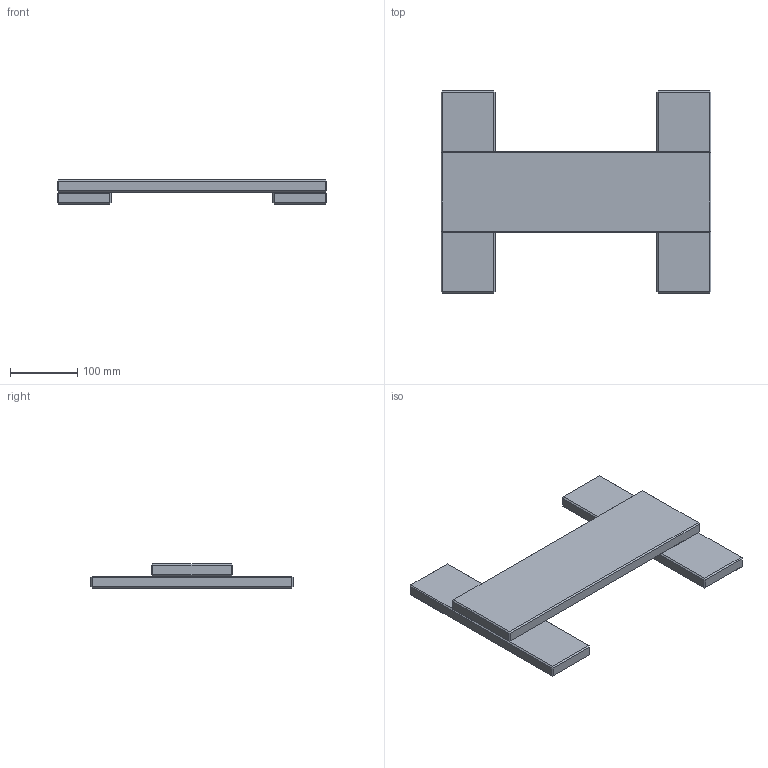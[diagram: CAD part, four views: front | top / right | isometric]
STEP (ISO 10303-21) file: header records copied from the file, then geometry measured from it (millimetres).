
FILE_DESCRIPTION(('Open CASCADE Model'),'2;1');
FILE_NAME('Open CASCADE Shape Model','2026-09-27T15:56:00',('Author'),( 'Open CASCADE'),'Open CASCADE STEP processor 7.9','Open CASCADE 7.9' ,'Unknown');
FILE_SCHEMA(('AUTOMOTIVE_DESIGN { 1 0 10303 214 1 1 1 1 }'));
Length unit declared in the file: millimetre
Products named in the file (4): balance-trainer-single; foot-1; foot-2; rail-1
Assembly tree (3 placements, depth 2):
  balance-trainer-single
    foot-1
    foot-2
    rail-1
Bounding box: 400 x 300 x 36 mm (x, y, z)
Volume: 1717456 mm3; surface area: 231792.3 mm2
Topology: 3 solids, 3 shells, 78 faces, 144 edges, 72 vertices
Faces by surface type: plane 78
Entity records: 3750 total; most frequent: DIRECTION 596, CARTESIAN_POINT 586, LINE 432, VECTOR 432, ORIENTED_EDGE 288, PCURVE 288, DEFINITIONAL_REPRESENTATION 288, EDGE_CURVE 144
